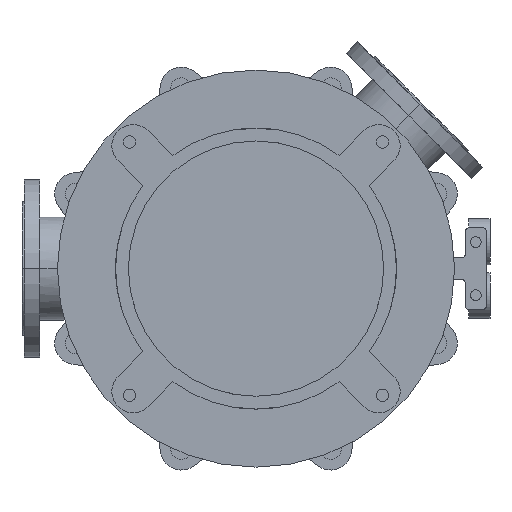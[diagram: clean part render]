
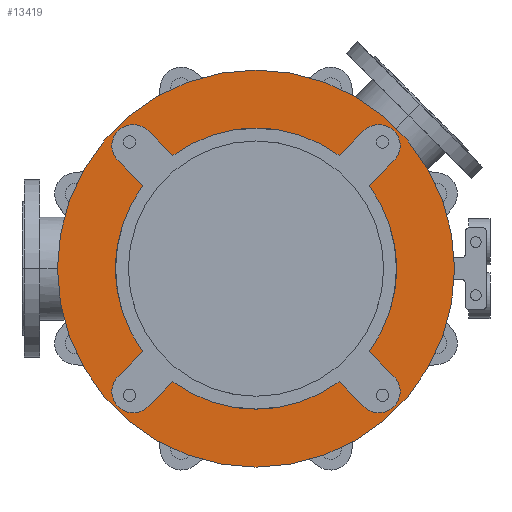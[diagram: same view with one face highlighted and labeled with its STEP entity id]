
A CAD part, front view. The second image highlights one B-rep face of the part: STEP entity #13419.
In plain terms, the highlighted planar face has unit normal (0, -1, 0).
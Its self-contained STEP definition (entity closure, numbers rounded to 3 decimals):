
#3019=CARTESIAN_POINT('',(0.,-25.,0.));
#3020=DIRECTION('',(0.,1.,0.));
#3021=DIRECTION('',(0.592,0.,-0.806));
#3022=AXIS2_PLACEMENT_3D('',#3019,#3020,#3021);
#3037=CARTESIAN_POINT('',(0.,-25.,0.));
#3038=DIRECTION('',(0.,1.,0.));
#3039=DIRECTION('',(0.806,0.,0.592));
#3040=AXIS2_PLACEMENT_3D('',#3037,#3038,#3039);
#3064=CARTESIAN_POINT('',(0.,-25.,0.));
#3065=DIRECTION('',(0.,1.,0.));
#3066=DIRECTION('',(-0.806,0.,-0.592));
#3067=AXIS2_PLACEMENT_3D('',#3064,#3065,#3066);
#3073=CARTESIAN_POINT('',(0.,-25.,0.));
#3074=DIRECTION('',(0.,1.,0.));
#3075=DIRECTION('',(-0.592,0.,0.806));
#3076=AXIS2_PLACEMENT_3D('',#3073,#3074,#3075);
#3251=CARTESIAN_POINT('',(0.,-25.,0.));
#3252=DIRECTION('',(0.,-1.,0.));
#3253=DIRECTION('',(-1.,0.,0.));
#3254=AXIS2_PLACEMENT_3D('',#3251,#3252,#3253);
#3256=CARTESIAN_POINT('',(0.,-25.,0.));
#3257=DIRECTION('',(0.,1.,0.));
#3258=DIRECTION('',(-1.,0.,0.));
#3259=AXIS2_PLACEMENT_3D('',#3256,#3257,#3258);
#3261=CARTESIAN_POINT('',(-173.241,-25.,173.241));
#3262=DIRECTION('',(0.,-1.,0.));
#3263=DIRECTION('',(0.707,0.,0.707));
#3264=AXIS2_PLACEMENT_3D('',#3261,#3262,#3263);
#3266=DIRECTION('',(0.707,0.,-0.707));
#3267=VECTOR('',#3266,49.286);
#3268=CARTESIAN_POINT('',(-194.454,-25.,152.028));
#3269=LINE('',#3268,#3267);
#3270=DIRECTION('',(-0.707,0.,-0.707));
#3271=VECTOR('',#3270,49.286);
#3272=CARTESIAN_POINT('',(-159.604,-25.,-117.178));
#3273=LINE('',#3272,#3271);
#3274=CARTESIAN_POINT('',(-173.241,-25.,-173.241));
#3275=DIRECTION('',(0.,-1.,0.));
#3276=DIRECTION('',(-0.707,0.,0.707));
#3277=AXIS2_PLACEMENT_3D('',#3274,#3275,#3276);
#3279=DIRECTION('',(0.707,0.,0.707));
#3280=VECTOR('',#3279,49.286);
#3281=CARTESIAN_POINT('',(-152.028,-25.,-194.454));
#3282=LINE('',#3281,#3280);
#3283=DIRECTION('',(0.707,0.,-0.707));
#3284=VECTOR('',#3283,49.286);
#3285=CARTESIAN_POINT('',(117.178,-25.,-159.604));
#3286=LINE('',#3285,#3284);
#3287=CARTESIAN_POINT('',(173.241,-25.,-173.241));
#3288=DIRECTION('',(0.,-1.,0.));
#3289=DIRECTION('',(-0.707,0.,-0.707));
#3290=AXIS2_PLACEMENT_3D('',#3287,#3288,#3289);
#3292=DIRECTION('',(-0.707,0.,0.707));
#3293=VECTOR('',#3292,49.286);
#3294=CARTESIAN_POINT('',(194.454,-25.,-152.028));
#3295=LINE('',#3294,#3293);
#3296=DIRECTION('',(0.707,0.,0.707));
#3297=VECTOR('',#3296,49.286);
#3298=CARTESIAN_POINT('',(159.604,-25.,117.178));
#3299=LINE('',#3298,#3297);
#3300=CARTESIAN_POINT('',(173.241,-25.,173.241));
#3301=DIRECTION('',(0.,-1.,0.));
#3302=DIRECTION('',(0.707,0.,-0.707));
#3303=AXIS2_PLACEMENT_3D('',#3300,#3301,#3302);
#3305=DIRECTION('',(-0.707,0.,-0.707));
#3306=VECTOR('',#3305,49.286);
#3307=CARTESIAN_POINT('',(152.028,-25.,194.454));
#3308=LINE('',#3307,#3306);
#3309=DIRECTION('',(-0.707,0.,0.707));
#3310=VECTOR('',#3309,49.286);
#3311=CARTESIAN_POINT('',(-117.178,-25.,159.604));
#3312=LINE('',#3311,#3310);
#8387=CARTESIAN_POINT('',(-280.,-25.,0.));
#8388=CARTESIAN_POINT('',(280.,-25.,0.));
#8389=VERTEX_POINT('',#8387);
#8390=VERTEX_POINT('',#8388);
#8411=CARTESIAN_POINT('',(-194.454,-25.,-152.028));
#8412=CARTESIAN_POINT('',(-152.028,-25.,-194.454));
#8413=VERTEX_POINT('',#8411);
#8414=VERTEX_POINT('',#8412);
#8415=CARTESIAN_POINT('',(-117.178,-25.,-159.604));
#8416=VERTEX_POINT('',#8415);
#8417=CARTESIAN_POINT('',(-159.604,-25.,-117.178));
#8418=VERTEX_POINT('',#8417);
#8427=CARTESIAN_POINT('',(152.028,-25.,-194.454));
#8428=CARTESIAN_POINT('',(194.454,-25.,-152.028));
#8429=VERTEX_POINT('',#8427);
#8430=VERTEX_POINT('',#8428);
#8431=CARTESIAN_POINT('',(159.604,-25.,-117.178));
#8432=VERTEX_POINT('',#8431);
#8433=CARTESIAN_POINT('',(117.178,-25.,-159.604));
#8434=VERTEX_POINT('',#8433);
#8443=CARTESIAN_POINT('',(194.454,-25.,152.028));
#8444=CARTESIAN_POINT('',(152.028,-25.,194.454));
#8445=VERTEX_POINT('',#8443);
#8446=VERTEX_POINT('',#8444);
#8447=CARTESIAN_POINT('',(117.178,-25.,159.604));
#8448=VERTEX_POINT('',#8447);
#8449=CARTESIAN_POINT('',(159.604,-25.,117.178));
#8450=VERTEX_POINT('',#8449);
#8459=CARTESIAN_POINT('',(-152.028,-25.,194.454));
#8460=CARTESIAN_POINT('',(-194.454,-25.,152.028));
#8461=VERTEX_POINT('',#8459);
#8462=VERTEX_POINT('',#8460);
#8463=CARTESIAN_POINT('',(-159.604,-25.,117.178));
#8464=VERTEX_POINT('',#8463);
#8465=CARTESIAN_POINT('',(-117.178,-25.,159.604));
#8466=VERTEX_POINT('',#8465);
#13379=CARTESIAN_POINT('',(0.,-25.,0.));
#13380=DIRECTION('',(0.,-1.,0.));
#13381=DIRECTION('',(-1.,0.,0.));
#13382=AXIS2_PLACEMENT_3D('',#13379,#13380,#13381);
#13383=PLANE('',#13382);
#13385=ORIENTED_EDGE('',*,*,#13384,.F.);
#13387=ORIENTED_EDGE('',*,*,#13386,.T.);
#13388=EDGE_LOOP('',(#13385,#13387));
#13389=FACE_OUTER_BOUND('',#13388,.F.);
#13391=ORIENTED_EDGE('',*,*,#13390,.T.);
#13393=ORIENTED_EDGE('',*,*,#13392,.T.);
#13394=ORIENTED_EDGE('',*,*,#13332,.F.);
#13396=ORIENTED_EDGE('',*,*,#13395,.T.);
#13398=ORIENTED_EDGE('',*,*,#13397,.T.);
#13400=ORIENTED_EDGE('',*,*,#13399,.T.);
#13401=ORIENTED_EDGE('',*,*,#13285,.F.);
#13402=ORIENTED_EDGE('',*,*,#13369,.T.);
#13404=ORIENTED_EDGE('',*,*,#13403,.T.);
#13406=ORIENTED_EDGE('',*,*,#13405,.T.);
#13407=ORIENTED_EDGE('',*,*,#13306,.F.);
#13409=ORIENTED_EDGE('',*,*,#13408,.T.);
#13411=ORIENTED_EDGE('',*,*,#13410,.T.);
#13413=ORIENTED_EDGE('',*,*,#13412,.T.);
#13414=ORIENTED_EDGE('',*,*,#13350,.F.);
#13416=ORIENTED_EDGE('',*,*,#13415,.T.);
#13417=EDGE_LOOP('',(#13391,#13393,#13394,#13396,#13398,#13400,#13401,#13402,
#13404,#13406,#13407,#13409,#13411,#13413,#13414,#13416));
#13418=FACE_BOUND('',#13417,.F.);
#13419=ADVANCED_FACE('',(#13389,#13418),#13383,.T.);
#3023=CIRCLE('',#3022,198.);
#3041=CIRCLE('',#3040,198.);
#3068=CIRCLE('',#3067,198.);
#3077=CIRCLE('',#3076,198.);
#3255=CIRCLE('',#3254,280.);
#3260=CIRCLE('',#3259,280.);
#3265=CIRCLE('',#3264,30.);
#3278=CIRCLE('',#3277,30.);
#3291=CIRCLE('',#3290,30.);
#3304=CIRCLE('',#3303,30.);
#13285=EDGE_CURVE('',#8434,#8416,#3023,.T.);
#13306=EDGE_CURVE('',#8450,#8432,#3041,.T.);
#13332=EDGE_CURVE('',#8418,#8464,#3068,.T.);
#13350=EDGE_CURVE('',#8466,#8448,#3077,.T.);
#13369=EDGE_CURVE('',#8434,#8429,#3286,.T.);
#13384=EDGE_CURVE('',#8389,#8390,#3255,.T.);
#13386=EDGE_CURVE('',#8389,#8390,#3260,.T.);
#13390=EDGE_CURVE('',#8461,#8462,#3265,.T.);
#13392=EDGE_CURVE('',#8462,#8464,#3269,.T.);
#13395=EDGE_CURVE('',#8418,#8413,#3273,.T.);
#13397=EDGE_CURVE('',#8413,#8414,#3278,.T.);
#13399=EDGE_CURVE('',#8414,#8416,#3282,.T.);
#13403=EDGE_CURVE('',#8429,#8430,#3291,.T.);
#13405=EDGE_CURVE('',#8430,#8432,#3295,.T.);
#13408=EDGE_CURVE('',#8450,#8445,#3299,.T.);
#13410=EDGE_CURVE('',#8445,#8446,#3304,.T.);
#13412=EDGE_CURVE('',#8446,#8448,#3308,.T.);
#13415=EDGE_CURVE('',#8466,#8461,#3312,.T.);
